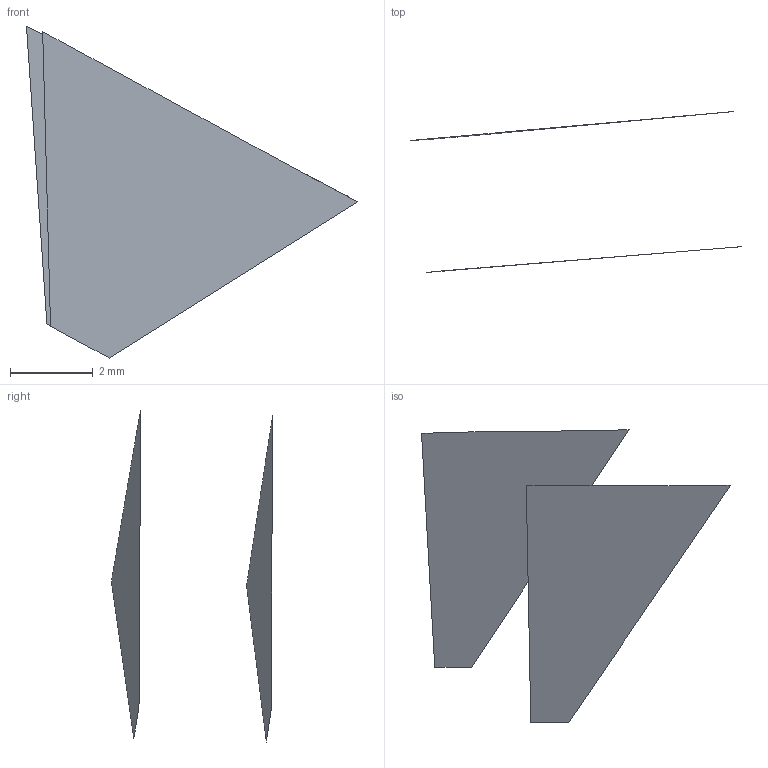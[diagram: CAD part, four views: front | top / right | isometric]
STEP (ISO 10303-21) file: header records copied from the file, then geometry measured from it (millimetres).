
FILE_DESCRIPTION(('FreeCAD Model'),'2;1');
FILE_NAME('Open CASCADE Shape Model','2022-05-22T07:50:30',('FreeCAD'),( 'FreeCAD'),'Open CASCADE STEP processor 7.5','FreeCAD','Unknown');
FILE_SCHEMA(('AUTOMOTIVE_DESIGN { 1 0 10303 214 1 1 1 1 }'));
Length unit declared in the file: millimetre
Products named in the file (3): Open CASCADE STEP translator 7.5 1; Open CASCADE STEP translator 7.5 1.1; Open CASCADE STEP translator 7.5 1.2
Assembly tree (2 placements, depth 2):
  Open CASCADE STEP translator 7.5 1
    Open CASCADE STEP translator 7.5 1.1
    Open CASCADE STEP translator 7.5 1.2
Bounding box: 7.99 x 3.89 x 8.01 mm (x, y, z)
Surface area: 63.5 mm2 (no closed solid volume)
Topology: 0 solids, 2 shells, 2 faces, 36 edges, 36 vertices
Faces by surface type: bspline 2
Entity records: 540 total; most frequent: CARTESIAN_POINT 191, B_SPLINE_CURVE_WITH_KNOTS 72, ORIENTED_EDGE 36, EDGE_CURVE 36, VERTEX_POINT 36, SURFACE_CURVE 36, PCURVE 36, DEFINITIONAL_REPRESENTATION 36
